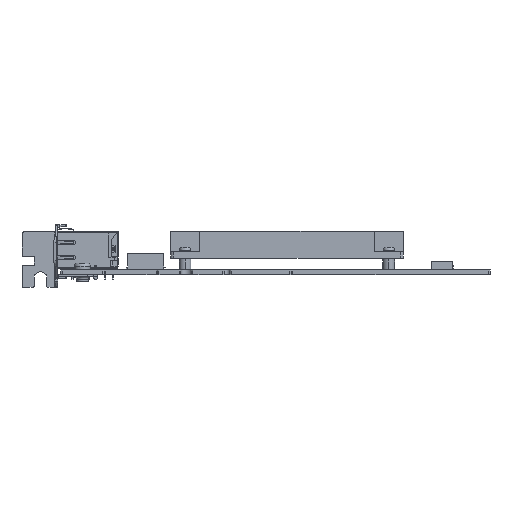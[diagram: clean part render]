
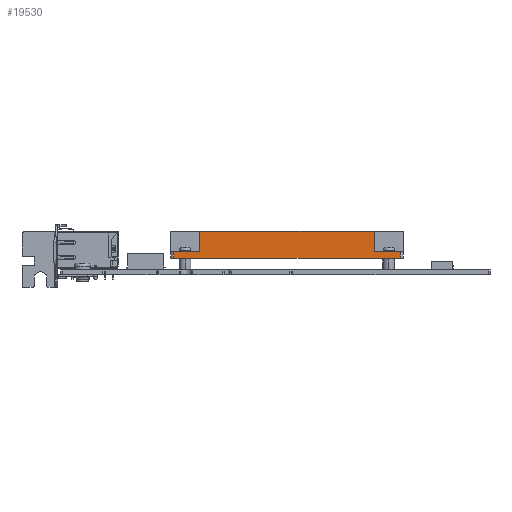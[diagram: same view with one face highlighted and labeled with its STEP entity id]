
A CAD part, front view. The second image highlights one B-rep face of the part: STEP entity #19530.
In plain terms, the highlighted planar face has unit normal (0, -1, 0).
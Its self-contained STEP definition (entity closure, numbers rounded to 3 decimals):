
#5756=DIRECTION('',(0.,0.,1.));
#5757=VECTOR('',#5756,2.3);
#5758=CARTESIAN_POINT('',(270.724,18.269,5.6));
#5759=LINE('',#5758,#5757);
#5764=DIRECTION('',(1.,0.,0.));
#5765=VECTOR('',#5764,9.);
#5766=CARTESIAN_POINT('',(192.724,18.269,7.9));
#5767=LINE('',#5766,#5765);
#5768=DIRECTION('',(0.,0.,1.));
#5769=VECTOR('',#5768,7.);
#5770=CARTESIAN_POINT('',(201.724,18.269,7.9));
#5771=LINE('',#5770,#5769);
#5772=DIRECTION('',(1.,0.,0.));
#5773=VECTOR('',#5772,60.);
#5774=CARTESIAN_POINT('',(201.724,18.269,14.9));
#5775=LINE('',#5774,#5773);
#5776=DIRECTION('',(0.,0.,-1.));
#5777=VECTOR('',#5776,7.);
#5778=CARTESIAN_POINT('',(261.724,18.269,14.9));
#5779=LINE('',#5778,#5777);
#5780=DIRECTION('',(1.,0.,0.));
#5781=VECTOR('',#5780,9.);
#5782=CARTESIAN_POINT('',(261.724,18.269,7.9));
#5783=LINE('',#5782,#5781);
#5784=DIRECTION('',(-1.,0.,0.));
#5785=VECTOR('',#5784,78.);
#5786=CARTESIAN_POINT('',(270.724,18.269,5.6));
#5787=LINE('',#5786,#5785);
#5788=DIRECTION('',(0.,0.,-1.));
#5789=VECTOR('',#5788,2.3);
#5790=CARTESIAN_POINT('',(192.724,18.269,7.9));
#5791=LINE('',#5790,#5789);
#11481=CARTESIAN_POINT('',(192.724,18.269,7.9));
#11482=CARTESIAN_POINT('',(192.724,18.269,5.6));
#11483=VERTEX_POINT('',#11481);
#11484=VERTEX_POINT('',#11482);
#11485=CARTESIAN_POINT('',(201.724,18.269,7.9));
#11486=VERTEX_POINT('',#11485);
#11487=CARTESIAN_POINT('',(201.724,18.269,14.9));
#11488=VERTEX_POINT('',#11487);
#11489=CARTESIAN_POINT('',(261.724,18.269,14.9));
#11490=VERTEX_POINT('',#11489);
#11491=CARTESIAN_POINT('',(261.724,18.269,7.9));
#11492=VERTEX_POINT('',#11491);
#11493=CARTESIAN_POINT('',(270.724,18.269,7.9));
#11494=VERTEX_POINT('',#11493);
#11495=CARTESIAN_POINT('',(270.724,18.269,5.6));
#11496=VERTEX_POINT('',#11495);
#19509=CARTESIAN_POINT('',(231.724,18.269,6.75));
#19510=DIRECTION('',(0.,-1.,0.));
#19511=DIRECTION('',(1.,0.,0.));
#19512=AXIS2_PLACEMENT_3D('',#19509,#19510,#19511);
#19513=PLANE('',#19512);
#19515=ORIENTED_EDGE('',*,*,#19514,.F.);
#19517=ORIENTED_EDGE('',*,*,#19516,.T.);
#19519=ORIENTED_EDGE('',*,*,#19518,.T.);
#19521=ORIENTED_EDGE('',*,*,#19520,.T.);
#19523=ORIENTED_EDGE('',*,*,#19522,.T.);
#19525=ORIENTED_EDGE('',*,*,#19524,.T.);
#19526=ORIENTED_EDGE('',*,*,#19501,.F.);
#19527=ORIENTED_EDGE('',*,*,#19216,.T.);
#19528=EDGE_LOOP('',(#19515,#19517,#19519,#19521,#19523,#19525,#19526,#19527));
#19529=FACE_OUTER_BOUND('',#19528,.F.);
#19530=ADVANCED_FACE('',(#19529),#19513,.T.);
#19216=EDGE_CURVE('',#11496,#11484,#5787,.T.);
#19501=EDGE_CURVE('',#11496,#11494,#5759,.T.);
#19514=EDGE_CURVE('',#11483,#11484,#5791,.T.);
#19516=EDGE_CURVE('',#11483,#11486,#5767,.T.);
#19518=EDGE_CURVE('',#11486,#11488,#5771,.T.);
#19520=EDGE_CURVE('',#11488,#11490,#5775,.T.);
#19522=EDGE_CURVE('',#11490,#11492,#5779,.T.);
#19524=EDGE_CURVE('',#11492,#11494,#5783,.T.);
